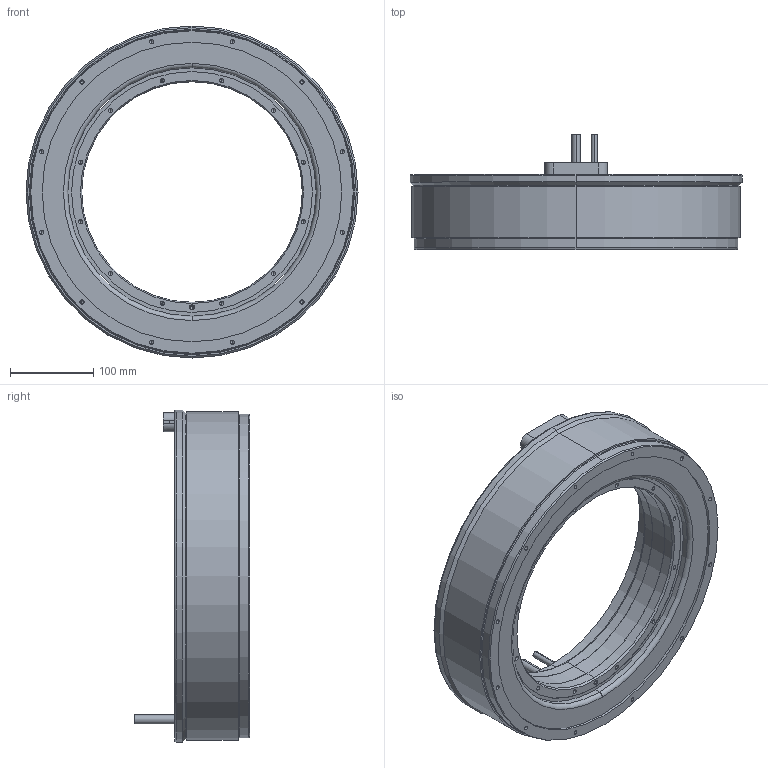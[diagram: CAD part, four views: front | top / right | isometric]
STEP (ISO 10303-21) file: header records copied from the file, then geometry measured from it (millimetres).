
FILE_DESCRIPTION (( 'STEP AP203' ), '1' );
FILE_NAME ('TM-2-A5-PA0(J0).STEP', '2023-06-06T01:50:22', ( '' ), ( '' ), 'SwSTEP 2.0', 'SolidWorks 2015', '' );
FILE_SCHEMA (( 'CONFIG_CONTROL_DESIGN' ));
Length unit declared in the file: millimetre
Products named in the file (3): TM-2-A5(J0)_Rotor; TM-2-A5-PA0(J0)_Stator; TM-2-A5-PA0(J0)
Assembly tree (2 placements, depth 2):
  TM-2-A5-PA0(J0)
    TM-2-A5-PA0(J0)_Stator
    TM-2-A5(J0)_Rotor
Bounding box: 399 x 139 x 399 mm (x, y, z)
Volume: 5293308.3 mm3; surface area: 443453.2 mm2
Topology: 2 solids, 2 shells, 343 faces, 816 edges, 445 vertices
Faces by surface type: cylinder 158, cone 126, plane 51, torus 8
Entity records: 9431 total; most frequent: DIRECTION 1760, CARTESIAN_POINT 1503, ORIENTED_EDGE 1420, EDGE_CURVE 710, AXIS2_PLACEMENT_3D 702, VERTEX_POINT 445, EDGE_LOOP 421, VECTOR 356
